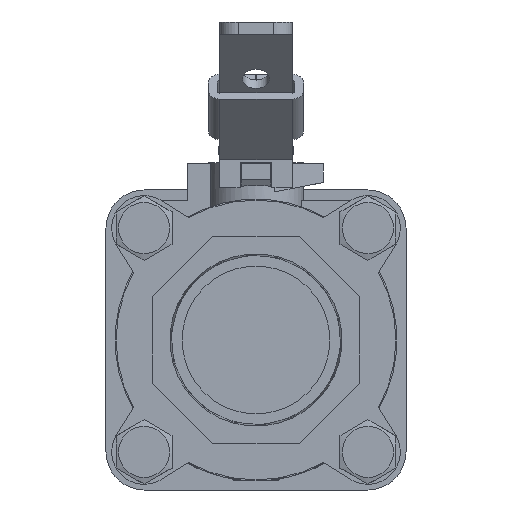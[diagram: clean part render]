
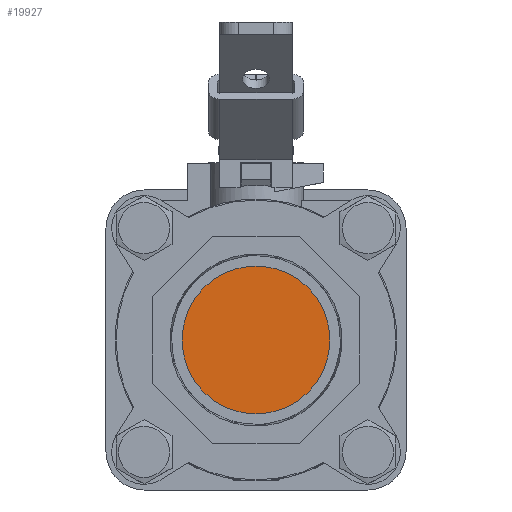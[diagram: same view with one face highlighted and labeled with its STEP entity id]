
A CAD part, left-side view. The second image highlights one B-rep face of the part: STEP entity #19927.
In plain terms, the highlighted planar face has unit normal (-1, 0, 0).
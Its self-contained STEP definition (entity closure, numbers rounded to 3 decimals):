
#19927 = ADVANCED_FACE('',(#19928),#19941,.F.);
#19928 = FACE_BOUND('',#19929,.T.);
#19929 = EDGE_LOOP('',(#19930));
#19930 = ORIENTED_EDGE('',*,*,#19931,.T.);
#19931 = EDGE_CURVE('',#19932,#19932,#19934,.T.);
#19932 = VERTEX_POINT('',#19933);
#19933 = CARTESIAN_POINT('',(1.377,-0.697,0.688));
#19934 = SURFACE_CURVE('',#19935,(#19940),.PCURVE_S1.);
#19935 = CIRCLE('',#19936,0.985);
#19936 = AXIS2_PLACEMENT_3D('',#19937,#19938,#19939);
#19937 = CARTESIAN_POINT('',(1.377,0.,1.385));
#19938 = DIRECTION('',(-1.,0.,0.));
#19939 = DIRECTION('',(0.,0.707,0.707)
  );
#19940 = PCURVE('',#19941,#19946);
#19941 = PLANE('',#19942);
#19942 = AXIS2_PLACEMENT_3D('',#19943,#19944,#19945);
#19943 = CARTESIAN_POINT('',(1.377,0.,1.385));
#19944 = DIRECTION('',(1.,0.,0.));
#19945 = DIRECTION('',(0.,0.,-1.));
#19946 = DEFINITIONAL_REPRESENTATION('',(#19947),#19955);
#19947 = ( BOUNDED_CURVE() B_SPLINE_CURVE(2,(#19948,#19949,#19950,#19951
    ,#19952,#19953,#19954),.UNSPECIFIED.,.T.,.F.) 
B_SPLINE_CURVE_WITH_KNOTS((1,2,2,2,2,1),(-2.094,0.,
    2.094,4.189,6.283,8.378),
.UNSPECIFIED.) CURVE() GEOMETRIC_REPRESENTATION_ITEM() 
RATIONAL_B_SPLINE_CURVE((1.,0.5,1.,0.5,1.,0.5,1.)) REPRESENTATION_ITEM(
  '') );
#19948 = CARTESIAN_POINT('',(-0.697,0.697));
#19949 = CARTESIAN_POINT('',(0.51,1.903));
#19950 = CARTESIAN_POINT('',(0.951,0.255));
#19951 = CARTESIAN_POINT('',(1.393,-1.393));
#19952 = CARTESIAN_POINT('',(-0.255,-0.951));
#19953 = CARTESIAN_POINT('',(-1.903,-0.51));
#19954 = CARTESIAN_POINT('',(-0.697,0.697));
#19955 = ( GEOMETRIC_REPRESENTATION_CONTEXT(2) 
PARAMETRIC_REPRESENTATION_CONTEXT() REPRESENTATION_CONTEXT('2D SPACE',''
  ) );
